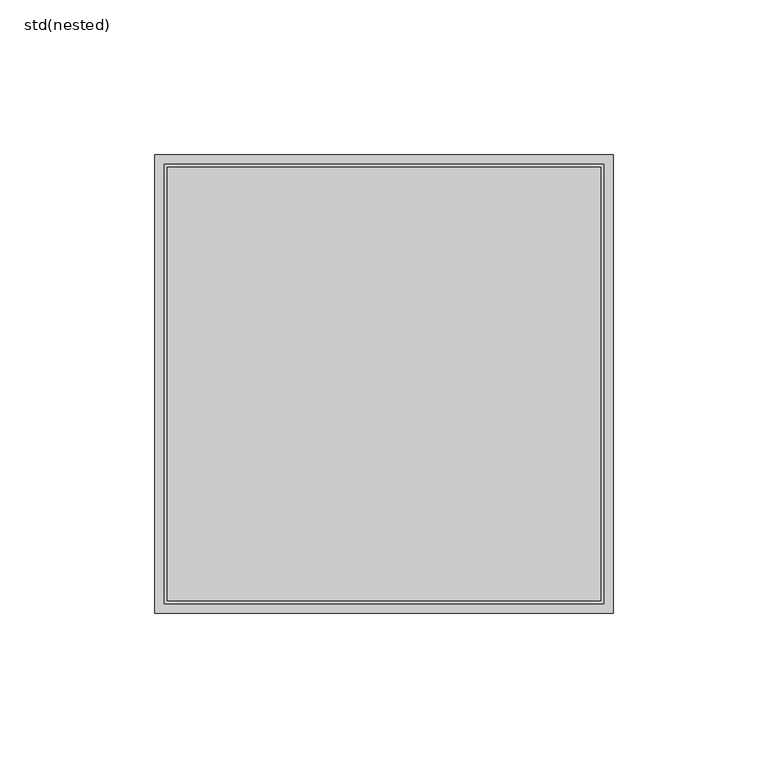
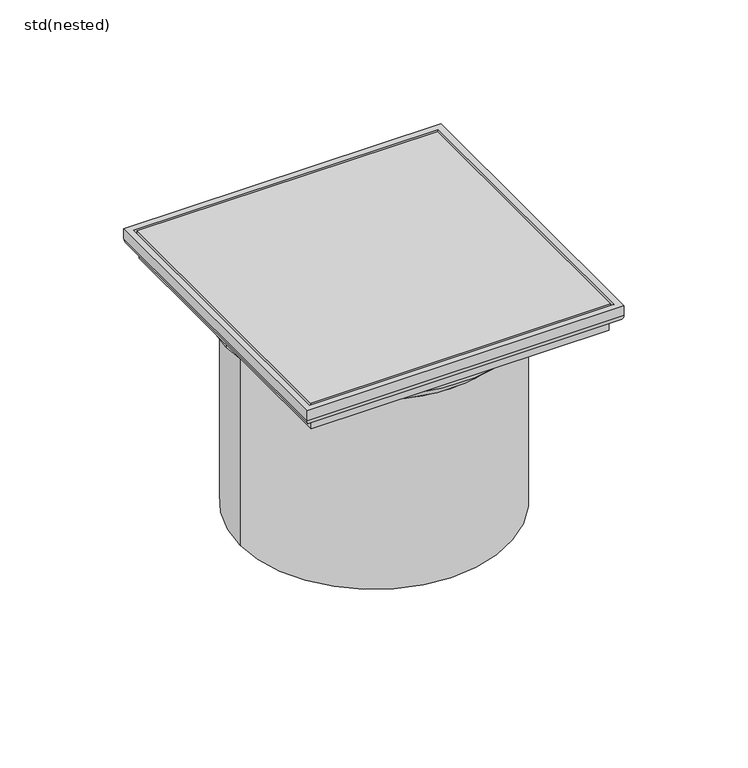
"""IFC4 building model written with IfcOpenShell, lengths in millimetres: sanitary terminal geometry, ZZZ_do not use_PF_ST_WPB_standard attachments screwed_CR 142_ACO : std(nested)."""

import ifcopenshell
import ifcopenshell.guid

model = None  # the IFC model being written
_history = None  # IfcOwnerHistory: only IFC2X3 demands one
_inside = {}  # id of a spatial element -> (the spatial element, [elements in it])
_under = {}  # id of a project, library or spatial element -> (it, [spatial elements below it])
_declared = {}  # id of a project -> (the project, [libraries it declares])
_typed = {}  # id of a type object -> (the type object, [elements of that type])
_made_of = {}  # id of a material, layer set ... -> (it, [elements and type objects made of it])


def new_model(schema):
    """Start an empty IFC model of exactly this schema.

    Asked for "IFC4X3", IfcOpenShell would pick the latest addendum, in which some entities
    have other attributes; the version numbers below select the first issue.
    IFC2X3 requires an IfcOwnerHistory on every rooted entity: one is made here for all.
    """
    global model, _history
    if schema == "IFC4X3":
        model = ifcopenshell.file(schema_version=(4, 3, 0, 0))
    else:
        model = ifcopenshell.file(schema=schema)
    _inside.clear()
    _under.clear()
    _declared.clear()
    _typed.clear()
    _made_of.clear()
    _history = None
    if model.schema == "IFC2X3":
        org = make("IfcOrganization", Name="unknown")
        user = make(
            "IfcPersonAndOrganization",
            ThePerson=make("IfcPerson", FamilyName="unknown"),
            TheOrganization=org,
        )
        app = make(
            "IfcApplication",
            ApplicationDeveloper=org,
            Version="unknown",
            ApplicationFullName="unknown",
            ApplicationIdentifier="unknown",
        )
        _history = make(
            "IfcOwnerHistory",
            OwningUser=user,
            OwningApplication=app,
            ChangeAction="ADDED",
            CreationDate=0,
        )
    return model


def make(cls, **values):
    """One entity of the class cls with the attributes given. An attribute that is None is left unset."""
    return model.create_entity(
        cls, **{name: value for name, value in values.items() if value is not None}
    )


def rooted(cls, **values):
    """An entity with a GlobalId (a new one), such as an element, a storey or a relation."""
    return make(cls, GlobalId=ifcopenshell.guid.new(), OwnerHistory=_history, **values)


def si_unit(unit_type, name, prefix=None):
    """IfcSIUnit, for example si_unit("LENGTHUNIT", "METRE", prefix="MILLI")."""
    return make("IfcSIUnit", UnitType=unit_type, Prefix=prefix, Name=name)


def assignment(units):
    """IfcUnitAssignment: the units of a project."""
    return None if units is None else make("IfcUnitAssignment", Units=units)


def point(xyz):
    """IfcCartesianPoint."""
    return None if xyz is None else make("IfcCartesianPoint", Coordinates=xyz)


def direction(xyz):
    """IfcDirection."""
    return None if xyz is None else make("IfcDirection", DirectionRatios=xyz)


def frame(location, z_axis=None, x_axis=None):
    """IfcAxis2Placement3D, a coordinate frame: its origin and axes. An axis left out is left unset."""
    return make(
        "IfcAxis2Placement3D",
        Location=point(location),
        Axis=direction(z_axis),
        RefDirection=direction(x_axis),
    )


def origin():
    """The frame at (0, 0, 0) with its axes left unset."""
    return frame((0.0, 0.0, 0.0))


def place(relative_to, where):
    """IfcLocalPlacement: puts the frame where relative to a parent placement (None: the world)."""
    return make(
        "IfcLocalPlacement", PlacementRelTo=relative_to, RelativePlacement=where
    )


def context(
    kind, dimensions, precision=None, world=None, true_north=None, identifier=None
):
    """IfcGeometricRepresentationContext, for example the 3D "Model" context."""
    return make(
        "IfcGeometricRepresentationContext",
        ContextIdentifier=identifier,
        ContextType=kind,
        CoordinateSpaceDimension=dimensions,
        Precision=precision,
        WorldCoordinateSystem=world,
        TrueNorth=true_north,
    )


def project(units=None, contexts=None):
    """IfcProject with its units and contexts."""
    return rooted(
        "IfcProject",
        Name="project",
        RepresentationContexts=contexts,
        UnitsInContext=assignment(units),
    )


def spatial(cls, under=None, at=None, **own):
    """A site, building, storey or space (cls), placed at a placement, below another one or the project."""
    s = rooted(cls, ObjectPlacement=at, **own)
    if under is not None:
        _under.setdefault(under.id(), (under, []))[1].append(s)
    return s


def polyline(points):
    """IfcPolyline through the points."""
    return make("IfcPolyline", Points=[point(p) for p in points])


def circle_curve(where, radius):
    """IfcCircle in the frame where."""
    return make("IfcCircle", Position=where, Radius=radius)


def ellipse_curve(where, semi_axis1, semi_axis2):
    """IfcEllipse in the frame where."""
    return make(
        "IfcEllipse", Position=where, SemiAxis1=semi_axis1, SemiAxis2=semi_axis2
    )


def outline(outer, holes=None, kind="AREA"):
    """IfcArbitraryClosedProfileDef: a profile drawn as a closed curve; with holes, ...WithVoids."""
    if holes is None:
        return make("IfcArbitraryClosedProfileDef", ProfileType=kind, OuterCurve=outer)
    return make(
        "IfcArbitraryProfileDefWithVoids",
        ProfileType=kind,
        OuterCurve=outer,
        InnerCurves=holes,
    )


def extrude(swept, where, along, depth):
    """IfcExtrudedAreaSolid: the profile swept, set in the frame where, extruded along a direction by depth."""
    return make(
        "IfcExtrudedAreaSolid",
        SweptArea=swept,
        Position=where,
        ExtrudedDirection=direction(along),
        Depth=depth,
    )


def shape(context_of_items, identifier, shape_type, items):
    """IfcShapeRepresentation: the items that make up one representation, for example the "Body"."""
    return make(
        "IfcShapeRepresentation",
        ContextOfItems=context_of_items,
        RepresentationIdentifier=identifier,
        RepresentationType=shape_type,
        Items=items,
    )


def source(mapping_origin, context_of_items, identifier, shape_type, items):
    """IfcRepresentationMap: a shape defined once, which mapped items show again and again."""
    return make(
        "IfcRepresentationMap",
        MappingOrigin=mapping_origin,
        MappedRepresentation=shape(context_of_items, identifier, shape_type, items),
    )


def transform(
    local_origin,
    x_axis=None,
    y_axis=None,
    z_axis=None,
    scale=None,
    scale2=None,
    scale3=None,
    uniform=True,
):
    """IfcCartesianTransformationOperator3D, or its non-uniform kind. x_axis, y_axis, z_axis: its Axis1, 2, 3."""
    if uniform:
        return make(
            "IfcCartesianTransformationOperator3D",
            Axis1=direction(x_axis),
            Axis2=direction(y_axis),
            LocalOrigin=point(local_origin),
            Scale=scale,
            Axis3=direction(z_axis),
        )
    return make(
        "IfcCartesianTransformationOperator3DnonUniform",
        Axis1=direction(x_axis),
        Axis2=direction(y_axis),
        LocalOrigin=point(local_origin),
        Scale=scale,
        Axis3=direction(z_axis),
        Scale2=scale2,
        Scale3=scale3,
    )


def mapped(mapping_source, mapping_target):
    """IfcMappedItem: shows the shape of a source again, moved by a transform."""
    return make(
        "IfcMappedItem", MappingSource=mapping_source, MappingTarget=mapping_target
    )


def made_of(thing, what):
    """Note that an element or type object is made of a material, layer set ...; save() writes the relation."""
    if what is not None:
        _made_of.setdefault(what.id(), (what, []))[1].append(thing)
    return thing


def element(
    cls,
    number,
    at=None,
    inside=None,
    cuts=None,
    type_object=None,
    material=None,
    context=None,
    identifier="Body",
    shape_type=None,
    held_by="IfcProductDefinitionShape",
    body=None,
    shapes=None,
    **own,
):
    """One element of the class cls, such as IfcWall. Its Tag is "e" and its number.

    at: its placement. inside: the storey or other place that contains it. cuts: it is an
    opening in that element (IfcRelVoidsElement). A single representation is given by context,
    identifier, shape_type and body (its items); several are given by shapes. held_by: the class
    of the entity that holds the representations. save() writes the other relations.
    """
    e = rooted(cls, Tag="e%d" % number, ObjectPlacement=at, **own)
    if body is not None:
        shapes = [shape(context, identifier, shape_type, body)]
    if shapes is not None:
        e.Representation = make(held_by, Representations=shapes)
    if inside is not None:
        _inside.setdefault(inside.id(), (inside, []))[1].append(e)
    if cuts is not None:
        rooted(
            "IfcRelVoidsElement", RelatingBuildingElement=cuts, RelatedOpeningElement=e
        )
    if type_object is not None:
        _typed.setdefault(type_object.id(), (type_object, []))[1].append(e)
    return made_of(e, material)


def aggregate(whole, parts):
    """IfcRelAggregates: a whole, such as a stair, and the parts it consists of."""
    return rooted("IfcRelAggregates", RelatingObject=whole, RelatedObjects=parts)


def save(model, path):
    """Write the relations noted so far, then the file.

    IfcRelAggregates (storeys below a building ...), IfcRelContainedInSpatialStructure (elements
    in a storey), IfcRelDefinesByType, IfcRelAssociatesMaterial and IfcRelDeclares: one each for
    every whole, place, type object, material and project.
    """
    for whole, parts in _under.values():
        aggregate(whole, parts)
    for where, things in _inside.values():
        rooted(
            "IfcRelContainedInSpatialStructure",
            RelatedElements=things,
            RelatingStructure=where,
        )
    for kind, things in _typed.values():
        rooted("IfcRelDefinesByType", RelatedObjects=things, RelatingType=kind)
    for what, things in _made_of.values():
        rooted("IfcRelAssociatesMaterial", RelatedObjects=things, RelatingMaterial=what)
    for by, libraries in _declared.values():
        rooted("IfcRelDeclares", RelatingContext=by, RelatedDefinitions=libraries)
    model.write(path)


def plane_surface(at):
    """IfcPlane: the flat surface through the origin of the frame at, square to its z axis."""
    return make("IfcPlane", Position=at)


def cylinder_surface(at, radius):
    """IfcCylindricalSurface: all points at the distance radius from the z axis of the frame at."""
    return make("IfcCylindricalSurface", Position=at, Radius=radius)


def revolved_surface(curve, axis_point, axis_direction):
    """IfcSurfaceOfRevolution: the curve turned about the line through axis_point along axis_direction."""
    return make(
        "IfcSurfaceOfRevolution",
        SweptCurve=make("IfcArbitraryOpenProfileDef", ProfileType="CURVE", Curve=curve),
        AxisPosition=make("IfcAxis1Placement", Location=point(axis_point), Axis=direction(axis_direction)),
    )


def advanced_brep(points, edges, surfaces, faces):
    """IfcAdvancedBrep: a solid bounded by faces that lie on surfaces and meet in shared edges.

    An edge is (start, end): straight between two places in points (the first is 0);
    or (start, end, curve); or (start, end, curve, False) where it runs against its curve.
    A face is (place in surfaces, loops), or (place, loops, False) where it looks against
    its surface's normal. A loop lists edges by number (the first is 1), with a minus sign
    where the edge is run from its end to its start. The first loop is the outer one.
    """
    corners = [point(p) for p in points]
    vertices = [make("IfcVertexPoint", VertexGeometry=c) for c in corners]
    made = []
    for start, end, *more in edges:
        made.append(
            make(
                "IfcEdgeCurve",
                EdgeStart=vertices[start],
                EdgeEnd=vertices[end],
                EdgeGeometry=more[0] if more else make("IfcPolyline", Points=[corners[start], corners[end]]),
                SameSense=more[1] if len(more) > 1 else True,
            )
        )
    hull = []
    for where, loops, *sense in faces:
        bounds = []
        for j, loop in enumerate(loops):
            ring = [make("IfcOrientedEdge", EdgeElement=made[abs(k) - 1], Orientation=k > 0) for k in loop]
            bounds.append(
                make(
                    "IfcFaceOuterBound" if j == 0 else "IfcFaceBound",
                    Bound=make("IfcEdgeLoop", EdgeList=ring),
                    Orientation=True,
                )
            )
        hull.append(make("IfcAdvancedFace", Bounds=bounds, FaceSurface=surfaces[where], SameSense=sense[0] if sense else True))
    return make("IfcAdvancedBrep", Outer=make("IfcClosedShell", CfsFaces=hull))


def std_nested_a32fa6b1(model_context):
    return source(origin(), model_context, "Body", "SolidModel", [
        extrude(outline(polyline([(14.0186787, 70.0), (14.0186787, -70.0), (-125.9813213, -70.0), (-125.9813213, 70.0), (14.0186787, 70.0)])), frame((0.0, 0.0, -5.2008219), z_axis=(0.0, 0.0, 1.0), x_axis=(1.0, 0.0, 0.0)), (0.0, 0.0, 1.0), 5.2008219),
        advanced_brep(
        [(13.0186787, 0.0, -15.3346148), (-124.9813213, 0.0, -15.3346148), (-124.9813213, 0.0, -13.2), (13.0186787, 0.0, -13.2), (-55.9813213, 0.0, -115.0), (-118.4813213, 0.0, -115.0), (6.5186787, 0.0, -115.0), (6.5186787, 0.0, -21.8346148), (-118.4813213, 0.0, -21.8346148), (18.0186787, 74.0, -4.7336714), (18.0186787, 74.0, 0.0), (18.0186787, -74.0, 0.0), (18.0186787, -74.0, -4.7336714), (14.5523502, -70.5336714, -8.2), (14.5523502, 70.5336714, -8.2), (13.5186787, 69.5, -13.2), (13.5186787, 69.5, -8.2), (13.5186787, -69.5, -8.2), (13.5186787, -69.5, -13.2), (10.5186787, 66.5, -5.2008219), (10.5186787, 66.5, -10.4603279), (10.5186787, -66.5, -10.4603279), (10.5186787, -66.5, -5.2008219), (15.0186787, 71.0, 0.0), (15.0186787, 71.0, -5.2008219), (15.0186787, -71.0, -5.2008219), (15.0186787, -71.0, 0.0), (-129.9813213, -74.0, 0.0), (-129.9813213, -74.0, -4.7336714), (-126.5149927, -70.5336714, -8.2), (-125.4813213, -69.5, -8.2), (-125.4813213, -69.5, -13.2), (-122.4813213, -66.5, -10.4603279), (-122.4813213, -66.5, -5.2008219), (-126.9813213, -71.0, -5.2008219), (-126.9813213, -71.0, 0.0), (-129.9813213, 74.0, 0.0), (-129.9813213, 74.0, -4.7336714), (-126.5149927, 70.5336714, -8.2), (-125.4813213, 69.5, -8.2), (-125.4813213, 69.5, -13.2), (-122.4813213, 66.5, -10.4603279), (-122.4813213, 66.5, -5.2008219), (-126.9813213, 71.0, -5.2008219), (-126.9813213, 71.0, 0.0)],
        [
            (0, 1, circle_curve(frame((-55.9813213, 0.0, -15.3346148), z_axis=(0.0, 0.0, 1.0), x_axis=(-1.0, 0.0, 0.0)), 69.0)),
            (1, 2),
            (2, 3, circle_curve(frame((-55.9813213, 0.0, -13.2), z_axis=(0.0, 0.0, -1.0), x_axis=(-1.0, 0.0, 0.0)), 69.0)),
            (3, 0),
            (1, 0, circle_curve(frame((-55.9813213, 0.0, -15.3346148), z_axis=(0.0, 0.0, 1.0), x_axis=(-1.0, 0.0, 0.0)), 69.0)),
            (3, 2, circle_curve(frame((-55.9813213, 0.0, -13.2), z_axis=(0.0, 0.0, -1.0), x_axis=(-1.0, 0.0, 0.0)), 69.0)),
            (4, 5),
            (5, 6, circle_curve(frame((-55.9813213, 0.0, -115.0), z_axis=(0.0, 0.0, -1.0), x_axis=(-1.0, 0.0, 0.0)), 62.5)),
            (6, 4),
            (6, 5, circle_curve(frame((-55.9813213, 0.0, -115.0), z_axis=(0.0, 0.0, -1.0), x_axis=(-1.0, 0.0, 0.0)), 62.5)),
            (0, 7),
            (7, 8, circle_curve(frame((-55.9813213, 0.0, -21.8346148), z_axis=(0.0, 0.0, 1.0), x_axis=(-1.0, 0.0, 0.0)), 62.5)),
            (8, 1),
            (8, 7, circle_curve(frame((-55.9813213, 0.0, -21.8346148), z_axis=(0.0, 0.0, 1.0), x_axis=(-1.0, 0.0, 0.0)), 62.5)),
            (5, 8),
            (7, 6),
            (9, 10),
            (10, 11),
            (11, 12),
            (12, 9),
            (12, 13, ellipse_curve(frame((14.5523502, -70.5336714, -4.7336714), z_axis=(0.7071067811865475, 0.7071067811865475, 0.0), x_axis=(-0.7071067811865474, 0.7071067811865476, 0.0)), 4.9021289, 3.4663286)),
            (13, 14),
            (14, 9, ellipse_curve(frame((14.5523502, 70.5336714, -4.7336714), z_axis=(0.7071067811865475, -0.7071067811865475, 0.0), x_axis=(0.7071067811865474, 0.7071067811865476, 0.0)), 4.9021289, 3.4663286)),
            (15, 16),
            (16, 17),
            (17, 18),
            (18, 15),
            (19, 20),
            (20, 21),
            (21, 22),
            (22, 19),
            (23, 24),
            (24, 25),
            (25, 26),
            (26, 23),
            (11, 27),
            (27, 28),
            (28, 12),
            (28, 29, ellipse_curve(frame((-126.5149927, -70.5336714, -4.7336714), z_axis=(0.7071067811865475, -0.7071067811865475, 0.0), x_axis=(0.7071067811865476, 0.7071067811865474, 0.0)), 4.9021289, 3.4663286)),
            (29, 13),
            (17, 30),
            (30, 31),
            (31, 18),
            (21, 32),
            (32, 33),
            (33, 22),
            (25, 34),
            (34, 35),
            (35, 26),
            (27, 36),
            (36, 37),
            (37, 28),
            (37, 38, ellipse_curve(frame((-126.5149927, 70.5336714, -4.7336714), z_axis=(-0.7071067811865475, -0.7071067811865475, 0.0), x_axis=(0.7071067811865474, -0.7071067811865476, 0.0)), 4.9021289, 3.4663286)),
            (38, 29),
            (30, 39),
            (39, 40),
            (40, 31),
            (32, 41),
            (41, 42),
            (42, 33),
            (34, 43),
            (43, 44),
            (44, 35),
            (10, 36),
            (44, 23),
            (9, 37),
            (14, 38),
            (16, 39),
            (15, 40),
            (19, 42),
            (41, 20),
            (24, 43),
        ],
        [
            cylinder_surface(frame((-55.9813213, 0.0, 74.4772972), z_axis=(0.0, 0.0, -1.0), x_axis=(-1.0, 0.0, 0.0)), 69.0),
            plane_surface(frame((-55.9813213, 0.0, -115.0), z_axis=(0.0, 0.0, -1.0), x_axis=(-1.0, 0.0, 0.0))),
            revolved_surface(polyline([(-124.9813213, 0.0, -15.3346148), (-118.4813213, 0.0, -21.8346148)]), (-55.9813213, 0.0, 74.4772972), (0.0, 0.0, -1.0)),
            cylinder_surface(frame((-55.9813213, 0.0, 74.4772972), z_axis=(0.0, 0.0, -1.0), x_axis=(-1.0, 0.0, 0.0)), 62.5),
            plane_surface(frame((18.0186787, 74.0, 0.0), z_axis=(1.0, 0.0, 0.0), x_axis=(0.0, -1.0, 0.0))),
            cylinder_surface(frame((14.5523502, 74.0, -4.7336714), z_axis=(0.0, 1.0, 0.0), x_axis=(1.0, 0.0, 0.0)), 3.4663286),
            plane_surface(frame((13.5186787, 69.5, -8.2), z_axis=(1.0, 0.0, 0.0), x_axis=(0.0, -1.0, 0.0))),
            plane_surface(frame((10.5186787, 66.5, -10.4603279), z_axis=(-1.0, 0.0, 0.0), x_axis=(0.0, -1.0, 0.0))),
            plane_surface(frame((15.0186787, 71.0, -5.2008219), z_axis=(-1.0, 0.0, 0.0), x_axis=(0.0, -1.0, 0.0))),
            plane_surface(frame((18.0186787, -74.0, 0.0), z_axis=(0.0, -1.0, 0.0), x_axis=(-1.0, 0.0, 0.0))),
            cylinder_surface(frame((18.0186787, -70.5336714, -4.7336714), z_axis=(1.0, 0.0, 0.0), x_axis=(0.0, -1.0, 0.0)), 3.4663286),
            plane_surface(frame((13.5186787, -69.5, -8.2), z_axis=(0.0, -1.0, 0.0), x_axis=(-1.0, 0.0, 0.0))),
            plane_surface(frame((10.5186787, -66.5, -10.4603279), z_axis=(0.0, 1.0, 0.0), x_axis=(-1.0, 0.0, 0.0))),
            plane_surface(frame((15.0186787, -71.0, -5.2008219), z_axis=(0.0, 1.0, 0.0), x_axis=(-1.0, 0.0, 0.0))),
            plane_surface(frame((-129.9813213, -74.0, 0.0), z_axis=(-1.0, 0.0, 0.0), x_axis=(0.0, 1.0, 0.0))),
            cylinder_surface(frame((-126.5149927, -74.0, -4.7336714), z_axis=(0.0, -1.0, 0.0), x_axis=(-1.0, 0.0, 0.0)), 3.4663286),
            plane_surface(frame((-125.4813213, -69.5, -8.2), z_axis=(-1.0, 0.0, 0.0), x_axis=(0.0, 1.0, 0.0))),
            plane_surface(frame((-122.4813213, -66.5, -10.4603279), z_axis=(1.0, 0.0, 0.0), x_axis=(0.0, 1.0, 0.0))),
            plane_surface(frame((-126.9813213, -71.0, -5.2008219), z_axis=(1.0, 0.0, 0.0), x_axis=(0.0, 1.0, 0.0))),
            plane_surface(frame((-126.9813213, 71.0, 0.0), z_axis=(0.0, 0.0, 1.0), x_axis=(1.0, 0.0, 0.0))),
            plane_surface(frame((-129.9813213, 74.0, 0.0), z_axis=(0.0, 1.0, 0.0), x_axis=(1.0, 0.0, 0.0))),
            cylinder_surface(frame((-129.9813213, 70.5336714, -4.7336714), z_axis=(-1.0, 0.0, 0.0), x_axis=(0.0, 1.0, 0.0)), 3.4663286),
            plane_surface(frame((-126.5149927, 70.5336714, -8.2), z_axis=(0.0, 0.0, -1.0), x_axis=(1.0, 0.0, 0.0))),
            plane_surface(frame((-125.4813213, 69.5, -8.2), z_axis=(0.0, 1.0, 0.0), x_axis=(1.0, 0.0, 0.0))),
            plane_surface(frame((-122.4813213, 66.5, -10.4603279), z_axis=(0.0, -1.0, 0.0), x_axis=(1.0, 0.0, 0.0))),
            plane_surface(frame((-122.4813213, 66.5, -5.2008219), z_axis=(0.0, 0.0, 1.0), x_axis=(1.0, 0.0, 0.0))),
            plane_surface(frame((-126.9813213, 71.0, -5.2008219), z_axis=(0.0, -1.0, 0.0), x_axis=(1.0, 0.0, 0.0))),
            plane_surface(frame((-122.4813213, 66.5, -13.2), z_axis=(0.0, 0.0, -1.0), x_axis=(1.0, 0.0, 0.0))),
            plane_surface(frame((-55.9813213, 0.0, -10.4603279), z_axis=(0.0, 0.0, 1.0), x_axis=(1.0, 0.0, 0.0))),
        ],
        [
            (0, [[1, 2, 3, 4]]),
            (0, [[-2, 5, -4, 6]]),
            (1, [[7, 8, 9]]),
            (1, [[-7, -9, 10]]),
            (2, [[-1, 11, 12, 13]]),
            (2, [[-5, -13, 14, -11]]),
            (3, [[-8, 15, -12, 16]]),
            (3, [[-10, -16, -14, -15]]),
            (4, [[17, 18, 19, 20]]),
            (5, [[-20, 21, 22, 23]]),
            (6, [[24, 25, 26, 27]]),
            (7, [[28, 29, 30, 31]]),
            (8, [[32, 33, 34, 35]]),
            (9, [[-19, 36, 37, 38]]),
            (10, [[-21, -38, 39, 40]]),
            (11, [[-26, 41, 42, 43]]),
            (12, [[-30, 44, 45, 46]]),
            (13, [[-34, 47, 48, 49]]),
            (14, [[-37, 50, 51, 52]]),
            (15, [[-39, -52, 53, 54]]),
            (16, [[-42, 55, 56, 57]]),
            (17, [[-45, 58, 59, 60]]),
            (18, [[-48, 61, 62, 63]]),
            (19, [[-18, 64, -50, -36], [-35, -49, -63, 65]]),
            (20, [[-17, 66, -51, -64]]),
            (21, [[-23, 67, -53, -66]]),
            (22, [[-22, -40, -54, -67], [-25, 68, -55, -41]]),
            (23, [[-24, 69, -56, -68]]),
            (24, [[-28, 70, -59, 71]]),
            (25, [[-33, 72, -61, -47], [-31, -46, -60, -70]]),
            (26, [[-32, -65, -62, -72]]),
            (27, [[-27, -43, -57, -69], [-3, -6]]),
            (28, [[-29, -71, -58, -44]]),
        ],
    ),
    ])


if __name__ == "__main__":
    model = new_model("IFC4")
    model_context = context("Model", 3, world=origin())
    ifc_project = project(units=[si_unit("LENGTHUNIT", "METRE", prefix="MILLI")], contexts=[model_context])
    site = spatial("IfcSite", under=ifc_project)
    building = spatial("IfcBuilding", under=site)
    placement = place(None, origin())
    std_nested_shape = std_nested_a32fa6b1(model_context)
    element("IfcSanitaryTerminal", 1, ObjectType="ZZZ_do not use_PF_ST_WPB_standard attachments screwed_CR 142_ACO : std(nested)", at=placement, inside=building, context=model_context, shape_type="MappedRepresentation", body=[
        mapped(std_nested_shape, transform((0.0, 0.0, 0.0), x_axis=(1.0, 0.0, 0.0), y_axis=(0.0, 1.0, 0.0), z_axis=(0.0, 0.0, 1.0))),
    ])
    save(model, "model.ifc")
